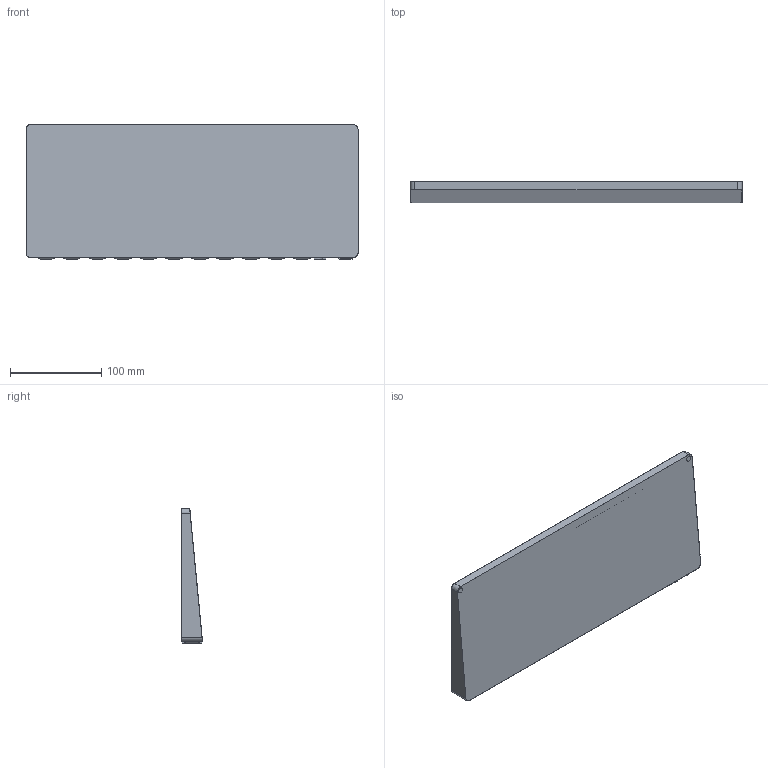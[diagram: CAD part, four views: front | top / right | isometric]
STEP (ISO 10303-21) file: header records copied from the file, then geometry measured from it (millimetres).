
FILE_DESCRIPTION(/* description */ ('STEP AP242','CAx-IF Rec.Pracs.---Representation and Presentation of Product Manufacturing Information (PMI)---4.0---2014-10-13','CAx-IF Rec.Pracs.---3D Tessellated Geometry---0.4---2014-09-14','2;1'),/* implementation_level */ '2;1');
FILE_NAME(/* name */ '68932d0d8a82666976ca863b',/* time_stamp */ '2025-08-06T10:23:10Z',/* author */ (''),/* organization */ (''),/* preprocessor_version */ 'ST-DEVELOPER v20',/* originating_system */ 'ONSHAPE BY PTC INC, 1.201',/* authorisation */ ' ');
FILE_SCHEMA (('AP242_MANAGED_MODEL_BASED_3D_ENGINEERING_MIM_LF { 1 0 10303 442 1 1 4 }'));
Length unit declared in the file: metre
Products named in the file (7): Part 7; Part 4; Part 5; Part 6; Part 1; Part 2; Part 3
Bounding box: 364 x 23.12 x 148 mm (x, y, z)
Volume: 142478.5 mm3; surface area: 270892.8 mm2
Topology: 7 solids, 7 shells, 535 faces, 1223 edges, 802 vertices
Faces by surface type: plane 375, cylinder 156, torus 4
Full cylindrical faces by diameter (mm): 3.4 x4, 6 x8, 6.26 x4
Entity records: 16677 total; most frequent: CARTESIAN_POINT 2567, DIRECTION 2549, ORIENTED_EDGE 2402, EDGE_CURVE 1201, LINE 921, VECTOR 921, AXIS2_PLACEMENT_3D 814, VERTEX_POINT 796
